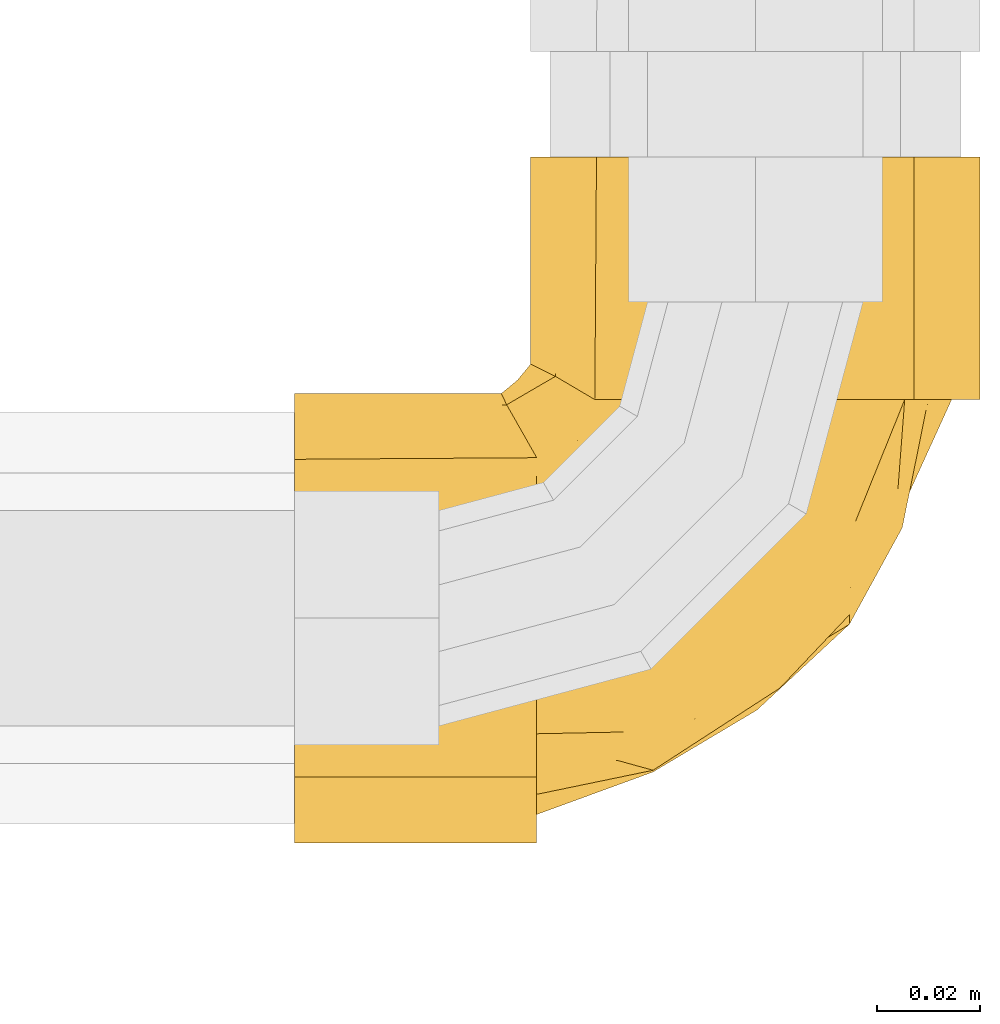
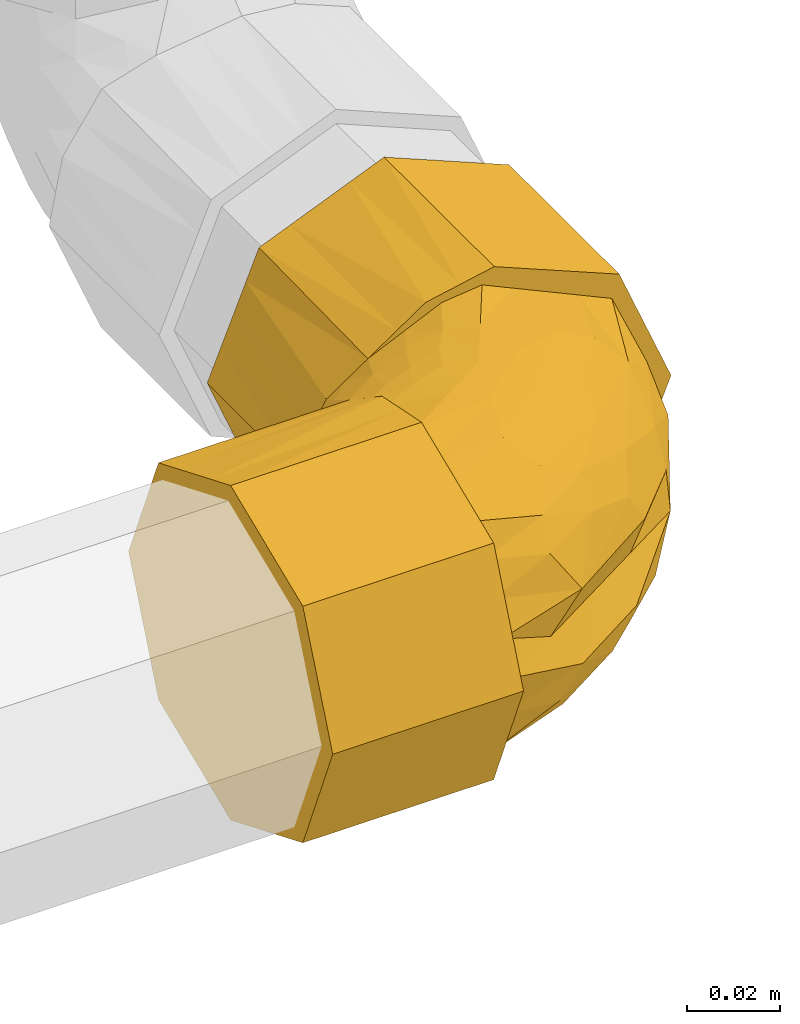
# One storey, part 275 of 652: 1 covering.
"""IFC2X3 building model written with IfcOpenShell, lengths in millimetres."""

import ifcopenshell
import ifcopenshell.guid

model = None  # the IFC model being written
_history = None  # IfcOwnerHistory: only IFC2X3 demands one
_inside = {}  # id of a spatial element -> (the spatial element, [elements in it])
_under = {}  # id of a project, library or spatial element -> (it, [spatial elements below it])
_declared = {}  # id of a project -> (the project, [libraries it declares])
_typed = {}  # id of a type object -> (the type object, [elements of that type])
_made_of = {}  # id of a material, layer set ... -> (it, [elements and type objects made of it])


def new_model(schema):
    """Start an empty IFC model of exactly this schema.

    Asked for "IFC4X3", IfcOpenShell would pick the latest addendum, in which some entities
    have other attributes; the version numbers below select the first issue.
    IFC2X3 requires an IfcOwnerHistory on every rooted entity: one is made here for all.
    """
    global model, _history
    if schema == "IFC4X3":
        model = ifcopenshell.file(schema_version=(4, 3, 0, 0))
    else:
        model = ifcopenshell.file(schema=schema)
    _inside.clear()
    _under.clear()
    _declared.clear()
    _typed.clear()
    _made_of.clear()
    _history = None
    if model.schema == "IFC2X3":
        org = make("IfcOrganization", Name="unknown")
        user = make(
            "IfcPersonAndOrganization",
            ThePerson=make("IfcPerson", FamilyName="unknown"),
            TheOrganization=org,
        )
        app = make(
            "IfcApplication",
            ApplicationDeveloper=org,
            Version="unknown",
            ApplicationFullName="unknown",
            ApplicationIdentifier="unknown",
        )
        _history = make(
            "IfcOwnerHistory",
            OwningUser=user,
            OwningApplication=app,
            ChangeAction="ADDED",
            CreationDate=0,
        )
    return model


def make(cls, **values):
    """One entity of the class cls with the attributes given. An attribute that is None is left unset."""
    return model.create_entity(
        cls, **{name: value for name, value in values.items() if value is not None}
    )


def entity(cls, *values):
    """Any entity or typed value of the class cls, its attributes in the order of the schema. None: left unset."""
    e = model.create_entity(cls)
    for i, value in enumerate(values):
        if value is not None:
            e[i] = value
    return e


def rooted(cls, **values):
    """An entity with a GlobalId (a new one), such as an element, a storey or a relation."""
    return make(cls, GlobalId=ifcopenshell.guid.new(), OwnerHistory=_history, **values)


def si_unit(unit_type, name, prefix=None):
    """IfcSIUnit, for example si_unit("LENGTHUNIT", "METRE", prefix="MILLI")."""
    return make("IfcSIUnit", UnitType=unit_type, Prefix=prefix, Name=name)


def converted_unit(unit_type, name, factor, base, dimensions=None, offset=None):
    """IfcConversionBasedUnit, such as the inch: factor (a typed value) times the base unit."""
    return make(
        "IfcConversionBasedUnit"
        if offset is None
        else "IfcConversionBasedUnitWithOffset",
        ConversionOffset=offset,
        Dimensions=None
        if dimensions is None
        else entity("IfcDimensionalExponents", *dimensions),
        UnitType=unit_type,
        Name=name,
        ConversionFactor=make(
            "IfcMeasureWithUnit", ValueComponent=factor, UnitComponent=base
        ),
    )


def assignment(units):
    """IfcUnitAssignment: the units of a project."""
    return None if units is None else make("IfcUnitAssignment", Units=units)


def point(xyz):
    """IfcCartesianPoint."""
    return None if xyz is None else make("IfcCartesianPoint", Coordinates=xyz)


def direction(xyz):
    """IfcDirection."""
    return None if xyz is None else make("IfcDirection", DirectionRatios=xyz)


def frame(location, z_axis=None, x_axis=None):
    """IfcAxis2Placement3D, a coordinate frame: its origin and axes. An axis left out is left unset."""
    return make(
        "IfcAxis2Placement3D",
        Location=point(location),
        Axis=direction(z_axis),
        RefDirection=direction(x_axis),
    )


def origin():
    """The frame at (0, 0, 0) with its axes left unset."""
    return frame((0.0, 0.0, 0.0))


def place(relative_to, where):
    """IfcLocalPlacement: puts the frame where relative to a parent placement (None: the world)."""
    return make(
        "IfcLocalPlacement", PlacementRelTo=relative_to, RelativePlacement=where
    )


def context(
    kind, dimensions, precision=None, world=None, true_north=None, identifier=None
):
    """IfcGeometricRepresentationContext, for example the 3D "Model" context."""
    return make(
        "IfcGeometricRepresentationContext",
        ContextIdentifier=identifier,
        ContextType=kind,
        CoordinateSpaceDimension=dimensions,
        Precision=precision,
        WorldCoordinateSystem=world,
        TrueNorth=true_north,
    )


def subcontext(parent, identifier, kind, view, scale=None):
    """IfcGeometricRepresentationSubContext, for example "Body" below "Model"."""
    return make(
        "IfcGeometricRepresentationSubContext",
        ContextIdentifier=identifier,
        ContextType=kind,
        ParentContext=parent,
        TargetScale=scale,
        TargetView=view,
    )


def project(units=None, contexts=None):
    """IfcProject with its units and contexts."""
    return rooted(
        "IfcProject",
        Name="project",
        RepresentationContexts=contexts,
        UnitsInContext=assignment(units),
    )


def spatial(cls, under=None, at=None, **own):
    """A site, building, storey or space (cls), placed at a placement, below another one or the project."""
    s = rooted(cls, ObjectPlacement=at, **own)
    if under is not None:
        _under.setdefault(under.id(), (under, []))[1].append(s)
    return s


def faces_of(points, faces, orient=None, outer=None):
    """IfcFace entities. A face is a list of loops; a loop is a list of indices into points, from 0.

    orient and outer hold one flag for each loop. By default every Orientation is true, the
    first loop of a face is its IfcFaceOuterBound and the others are IfcFaceBound.
    """
    made = []
    for i, loops in enumerate(faces):
        bounds = []
        for j, loop in enumerate(loops):
            is_outer = j == 0 if outer is None else outer[i][j]
            bounds.append(
                make(
                    "IfcFaceOuterBound" if is_outer else "IfcFaceBound",
                    Bound=make("IfcPolyLoop", Polygon=[points[k] for k in loop]),
                    Orientation=True if orient is None else orient[i][j],
                )
            )
        made.append(make("IfcFace", Bounds=bounds))
    return made


def faceted_brep(points, faces, orient=None, outer=None, voids=None):
    """IfcFacetedBrep: a solid bounded by flat faces; with voids (closed shells), ...WithVoids."""
    shared = [point(p) for p in points]
    hull = make("IfcClosedShell", CfsFaces=faces_of(shared, faces, orient, outer))
    if voids is None:
        return make("IfcFacetedBrep", Outer=hull)
    return make(
        "IfcFacetedBrepWithVoids",
        Outer=hull,
        Voids=[
            make(cls, CfsFaces=faces_of(shared, fs, o, b)) for cls, fs, o, b in voids
        ],
    )


def shape(context_of_items, identifier, shape_type, items):
    """IfcShapeRepresentation: the items that make up one representation, for example the "Body"."""
    return make(
        "IfcShapeRepresentation",
        ContextOfItems=context_of_items,
        RepresentationIdentifier=identifier,
        RepresentationType=shape_type,
        Items=items,
    )


def material(Name=None, Category=None):
    """IfcMaterial."""
    return make("IfcMaterial", Name=Name, Category=Category)


def made_of(thing, what):
    """Note that an element or type object is made of a material, layer set ...; save() writes the relation."""
    if what is not None:
        _made_of.setdefault(what.id(), (what, []))[1].append(thing)
    return thing


def type_object(cls, material=None, **own):
    """A type object (cls), such as IfcWallType, which elements share."""
    return made_of(rooted(cls, **own), material)


def element(
    cls,
    number,
    at=None,
    inside=None,
    cuts=None,
    type_object=None,
    material=None,
    context=None,
    identifier="Body",
    shape_type=None,
    held_by="IfcProductDefinitionShape",
    body=None,
    shapes=None,
    **own,
):
    """One element of the class cls, such as IfcWall. Its Tag is "e" and its number.

    at: its placement. inside: the storey or other place that contains it. cuts: it is an
    opening in that element (IfcRelVoidsElement). A single representation is given by context,
    identifier, shape_type and body (its items); several are given by shapes. held_by: the class
    of the entity that holds the representations. save() writes the other relations.
    """
    e = rooted(cls, Tag="e%d" % number, ObjectPlacement=at, **own)
    if body is not None:
        shapes = [shape(context, identifier, shape_type, body)]
    if shapes is not None:
        e.Representation = make(held_by, Representations=shapes)
    if inside is not None:
        _inside.setdefault(inside.id(), (inside, []))[1].append(e)
    if cuts is not None:
        rooted(
            "IfcRelVoidsElement", RelatingBuildingElement=cuts, RelatedOpeningElement=e
        )
    if type_object is not None:
        _typed.setdefault(type_object.id(), (type_object, []))[1].append(e)
    return made_of(e, material)


def aggregate(whole, parts):
    """IfcRelAggregates: a whole, such as a stair, and the parts it consists of."""
    return rooted("IfcRelAggregates", RelatingObject=whole, RelatedObjects=parts)


def save(model, path):
    """Write the relations noted so far, then the file.

    IfcRelAggregates (storeys below a building ...), IfcRelContainedInSpatialStructure (elements
    in a storey), IfcRelDefinesByType, IfcRelAssociatesMaterial and IfcRelDeclares: one each for
    every whole, place, type object, material and project.
    """
    for whole, parts in _under.values():
        aggregate(whole, parts)
    for where, things in _inside.values():
        rooted(
            "IfcRelContainedInSpatialStructure",
            RelatedElements=things,
            RelatingStructure=where,
        )
    for kind, things in _typed.values():
        rooted("IfcRelDefinesByType", RelatedObjects=things, RelatingType=kind)
    for what, things in _made_of.values():
        rooted("IfcRelAssociatesMaterial", RelatedObjects=things, RelatingMaterial=what)
    for by, libraries in _declared.values():
        rooted("IfcRelDeclares", RelatingContext=by, RelatedDefinitions=libraries)
    model.write(path)


model = new_model("IFC2X3")

# Units and contexts
model_context = context("Model", 3, precision=0.01, world=frame((0.0, 0.0, 308426.39999999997)), true_north=direction((6.123233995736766e-17, 1.0)))
plan_context = context("Plan", 3, precision=0.01, world=frame((0.0, 0.0, 308426.39999999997)), true_north=direction((6.123233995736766e-17, 1.0)))
body_context = subcontext(model_context, "Body", "Model", "MODEL_VIEW")
ifc_project = project(units=[si_unit("LENGTHUNIT", "METRE", prefix="MILLI"), si_unit("AREAUNIT", "SQUARE_METRE"), si_unit("VOLUMEUNIT", "CUBIC_METRE"), converted_unit("PLANEANGLEUNIT", "DEGREE", entity("IfcPlaneAngleMeasure", 0.017453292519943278), si_unit("PLANEANGLEUNIT", "RADIAN"), dimensions=[0, 0, 0, 0, 0, 0, 0])], contexts=[model_context, plan_context])

# Site, building, storey
site_placement = place(None, origin())
site = spatial("IfcSite", under=ifc_project, at=site_placement, Name="Default", CompositionType="ELEMENT")
building_placement = place(site_placement, origin())
building = spatial("IfcBuilding", under=site, at=building_placement, CompositionType="ELEMENT")
storey_placement = place(building_placement, frame((0.0, 0.0, 1730.6999999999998)))
storey = spatial("IfcBuildingStorey", under=building, at=storey_placement, Name="EG_Produktion_FFB", CompositionType="ELEMENT", Elevation=1730.6999999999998)

# Covering
ifc_material = material(Name="Dämmung - Armaflex-Schlauch")
covering_type = type_object("IfcCoveringType", Name="Rohrdämmung außen:Armaflex-Schlauch", PredefinedType="INSULATION")
covering_placement = place(storey_placement, frame((79532.37274770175, 78533.41483172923, 3554.684727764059)))
element("IfcCovering", 1, at=covering_placement, inside=storey, type_object=covering_type, material=ifc_material, Name="Rohrdämmung außen:Armaflex-Schlauch", ObjectType="Rohrdämmung außen:Armaflex-Schlauch", PredefinedType="INSULATION", context=body_context, shape_type="Brep", body=[
    faceted_brep([(47.17999999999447, 45.31527223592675, 1.5952722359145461), (47.17999999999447, 53.79016376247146, 3.3049418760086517), (47.17999999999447, 62.26505528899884, 5.01461151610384), (47.17999999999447, 69.40707949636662, 9.868813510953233), (47.17999999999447, 76.54910370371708, 14.723015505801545), (47.180000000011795, 67.43551000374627, 10.581665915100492), (47.17999999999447, 58.3219163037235, 6.4403163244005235), (47.17999999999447, 48.3217638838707, 5.315272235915), (47.180000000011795, 40.633175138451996, 8.855811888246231), (47.180000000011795, 32.944586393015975, 12.396351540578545), (47.180000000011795, 24.59523826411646, 16.241166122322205), (47.17999999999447, 16.2458901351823, 20.08598070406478), (47.180000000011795, 11.677312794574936, 32.70062646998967), (47.17999999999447, 7.108735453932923, 45.31527223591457), (47.180000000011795, 11.03642767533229, 53.1972475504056), (47.180000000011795, 14.964119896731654, 61.07922286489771), (47.180000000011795, 18.89181211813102, 68.96119817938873), (47.17999999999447, 22.819504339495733, 76.84317349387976), (47.180000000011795, 32.05670644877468, 79.91186190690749), (47.180000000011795, 40.18923516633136, 82.61356707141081), (47.17999999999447, 48.3217638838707, 85.31527223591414), (47.180000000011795, 52.07968978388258, 84.47655416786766), (47.180000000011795, 55.837615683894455, 83.63783609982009), (47.180000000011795, 61.847960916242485, 82.29640860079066), (47.17999999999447, 67.85830614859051, 80.95498110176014), (47.17999999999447, 76.54910370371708, 75.9075289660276), (47.17999999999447, 69.40707949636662, 80.76173096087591), (47.17999999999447, 62.26505528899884, 85.6159329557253), (47.17999999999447, 53.79016376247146, 87.32560259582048), (47.17999999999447, 45.31527223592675, 89.03527223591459), (47.17999999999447, 36.91076329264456, 85.55401064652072), (47.17999999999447, 29.857917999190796, 82.6326264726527), (47.17999999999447, 22.129240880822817, 79.43130359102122), (47.17999999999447, 14.400563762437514, 76.22998070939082), (47.17999999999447, 11.199240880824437, 68.50130359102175), (47.17999999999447, 7.9979179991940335, 60.77262647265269), (47.17999999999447, 5.076533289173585, 53.71977988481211), (47.17999999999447, 1.5952722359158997, 45.31527223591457), (47.17999999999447, 5.076533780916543, 36.91076339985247), (47.17999999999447, 7.9979179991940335, 29.85791799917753), (47.17999999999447, 11.199240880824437, 22.12924088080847), (47.17999999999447, 14.400563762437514, 14.400563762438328), (47.17999999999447, 22.129240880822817, 11.199240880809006), (47.17999999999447, 29.857917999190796, 7.997917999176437), (47.17999999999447, 36.910764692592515, 5.07653324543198), (0.0, 76.22998070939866, 76.22998070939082), (0.0, 79.43130359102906, 68.50130359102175), (0.0, 82.63262647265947, 60.77262647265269), (0.0, 85.83394935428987, 53.04394935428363), (0.0, 89.03527223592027, 45.31527223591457), (0.0, 85.55401125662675, 36.91076476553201), (0.0, 82.63262647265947, 29.857917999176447), (0.0, 79.43130359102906, 22.129240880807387), (0.0, 76.22998070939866, 14.400563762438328), (0.0, 68.50130359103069, 11.199240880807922), (0.0, 60.77262647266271, 7.997917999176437), (0.0, 53.04394935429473, 4.796595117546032), (0.0, 45.31527223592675, 1.5952722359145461), (0.0, 37.58659511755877, 4.796595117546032), (0.0, 29.857917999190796, 7.997917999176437), (0.0, 22.129240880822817, 11.199240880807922), (0.0, 14.400563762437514, 14.400563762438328), (0.0, 11.199240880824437, 22.12924088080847), (0.0, 7.9979179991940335, 29.857917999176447), (0.0, 4.796595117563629, 37.58659511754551), (0.0, 1.5952722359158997, 45.31527223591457), (0.0, 4.796595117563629, 53.04394935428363), (0.0, 7.9979179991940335, 60.77262647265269), (0.0, 11.199240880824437, 68.50130359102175), (0.0, 14.400563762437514, 76.22998070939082), (0.0, 21.453408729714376, 79.15136474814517), (0.0, 28.50625369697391, 82.07274878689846), (0.0, 36.91076296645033, 85.55401051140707), (0.0, 45.31527223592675, 89.03527223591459), (0.0, 53.71977982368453, 85.55401120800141), (0.0, 60.77262647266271, 82.6326264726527), (0.0, 68.50130359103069, 79.4313035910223), (40.28038015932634, 89.03527223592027, 45.31527223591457), (41.33169831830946, 86.84897286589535, 58.96774864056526), (44.25584915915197, 81.69903828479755, 67.43763880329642), (41.46955853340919, 86.62452082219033, 35.33597719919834), (42.65873690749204, 84.21376940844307, 25.35668216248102), (44.91936845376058, 80.38143655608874, 20.039848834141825), (89.72000000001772, 87.85527223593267, 1.595272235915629), (98.1245082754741, 87.85527223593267, 5.07653354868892), (105.17735423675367, 87.85527223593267, 7.9979179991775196), (112.90603135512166, 87.85527223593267, 11.199240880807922), (120.63470847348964, 87.85527223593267, 14.40056376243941), (123.83603135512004, 87.85527223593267, 22.12924088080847), (127.03735423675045, 87.85527223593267, 29.85791799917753), (129.95873900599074, 87.85527223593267, 36.910764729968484), (133.44000000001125, 87.85527223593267, 45.31527223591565), (129.95873853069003, 87.85527223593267, 53.71978088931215), (127.03735423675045, 87.85527223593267, 60.772626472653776), (123.83603135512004, 87.85527223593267, 68.50130359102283), (120.63470847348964, 87.85527223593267, 76.2299807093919), (112.90603135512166, 87.85527223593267, 79.4313035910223), (105.17735423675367, 87.85527223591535, 82.6326264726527), (98.12450799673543, 87.85527223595, 85.55401103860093), (89.72000000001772, 87.85527223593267, 89.03527223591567), (81.24510874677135, 87.85527223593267, 87.32560271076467), (72.77021749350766, 87.85527223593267, 85.61593318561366), (65.62819301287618, 87.85527223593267, 80.76173107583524), (58.48616853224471, 87.85527223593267, 75.90752896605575), (67.59976223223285, 87.85527223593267, 80.0488785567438), (76.71335593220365, 87.85527223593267, 84.19022814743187), (86.71350835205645, 87.85527223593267, 85.31527223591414), (94.40209699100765, 87.85527223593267, 81.77473263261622), (102.09068562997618, 87.85527223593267, 78.23419302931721), (110.44003386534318, 87.85527223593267, 74.38937839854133), (118.78938210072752, 87.85527223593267, 70.54456376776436), (123.35795944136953, 87.85527223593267, 57.92991800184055), (127.92653678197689, 87.85527223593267, 45.31527223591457), (124.11404686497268, 87.85527223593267, 37.66448146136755), (120.30155694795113, 87.85527223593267, 30.013690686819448), (116.25866242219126, 87.85527223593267, 21.900530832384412), (112.21576789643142, 87.85527223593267, 13.78737097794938), (102.97856549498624, 87.85527223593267, 10.718682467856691), (94.84603692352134, 87.85527223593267, 8.016977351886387), (86.71350835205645, 87.85527223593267, 5.315272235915), (82.95558201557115, 87.85527223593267, 6.153990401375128), (79.19765567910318, 87.85527223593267, 6.9927085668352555), (73.18731088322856, 87.85527223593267, 8.334135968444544), (67.17696608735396, 87.85527223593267, 9.675563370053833), (58.48616853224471, 87.85527223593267, 14.723015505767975), (65.62819301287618, 87.85527223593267, 9.868813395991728), (72.77021749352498, 87.85527223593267, 5.01461128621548), (81.24510874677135, 87.85527223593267, 3.3049417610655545), (120.63470847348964, 135.03527223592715, 76.2299807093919), (123.5560925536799, 135.03527223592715, 69.17713564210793), (126.47747663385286, 135.03527223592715, 62.12429057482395), (129.9587383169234, 135.03527223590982, 53.7197814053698), (133.44000000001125, 135.03527223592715, 45.31527223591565), (130.23867711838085, 135.03527223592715, 37.586595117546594), (127.03735423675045, 135.03527223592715, 29.85791799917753), (123.83603135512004, 135.03527223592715, 22.12924088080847), (120.63470847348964, 135.03527223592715, 14.40056376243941), (113.58186238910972, 135.03527223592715, 11.479179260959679), (106.5290163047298, 135.03527223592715, 8.557794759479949), (98.12450815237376, 135.03527223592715, 5.076533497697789), (89.72000000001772, 135.03527223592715, 1.595272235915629), (81.31549252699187, 135.03527223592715, 5.076533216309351), (74.26264576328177, 135.03527223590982, 7.9979179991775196), (66.53396864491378, 135.03527223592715, 11.199240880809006), (58.805291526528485, 135.03527223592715, 14.40056376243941), (55.603968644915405, 135.03527223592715, 22.129240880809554), (52.402645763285, 135.03527223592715, 29.85791799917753), (49.2013228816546, 135.03527223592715, 37.586595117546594), (46.0, 135.03527223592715, 45.31527223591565), (49.48126098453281, 135.03527223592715, 53.71977971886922), (52.402645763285, 135.03527223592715, 60.772626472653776), (55.603968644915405, 135.03527223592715, 68.50130359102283), (58.805291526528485, 135.03527223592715, 76.2299807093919), (66.53396864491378, 135.03527223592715, 79.4313035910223), (74.26264576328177, 135.03527223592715, 82.63262647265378), (81.3154907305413, 135.03527223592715, 85.55401051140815), (89.72000000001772, 135.03527223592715, 89.03527223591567), (97.4486771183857, 135.03527223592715, 85.83394935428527), (105.17735423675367, 135.03527223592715, 82.63262647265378), (112.90603135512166, 135.03527223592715, 79.4313035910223), (48.410751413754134, 93.5657137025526, 55.294567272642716), (46.0, 94.75489207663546, 45.31527223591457), (50.8215028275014, 92.37653532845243, 65.27386230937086), (54.653835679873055, 90.11590378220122, 70.59069563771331), (48.18629937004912, 93.70357391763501, 31.662795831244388), (53.336233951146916, 90.7794230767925, 23.19290566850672), (69.00398703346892, 32.542650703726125, 77.86587625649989), (79.26910311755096, 51.42928359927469, 82.8446716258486), (64.28083873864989, 39.731083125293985, 82.52556184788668), (81.73107569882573, 63.42773519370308, 84.62352217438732), (79.20442983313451, 75.59759657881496, 85.31527223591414), (78.10776438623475, 73.80742095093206, 85.31527223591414), (74.90155785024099, 68.57367093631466, 85.31527223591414), (71.69535131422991, 63.339920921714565, 85.31527223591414), (67.73559181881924, 51.36605693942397, 84.7662311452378), (62.90914025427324, 17.630996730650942, 66.05232360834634), (64.29367597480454, 23.177365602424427, 72.22141766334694), (109.22554710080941, 64.17997612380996, 71.71080253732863), (102.70311048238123, 67.51314169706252, 78.22924719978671), (108.27850507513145, 51.24294252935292, 62.80949503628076), (117.4765137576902, 70.50737075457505, 64.91193348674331), (89.70611796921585, 44.60323784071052, 75.72471560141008), (79.3911978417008, 32.37339901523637, 73.02350929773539), (94.79312059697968, 40.16518469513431, 68.32454403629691), (90.62231442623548, 54.501993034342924, 79.98762004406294), (62.3907714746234, 16.36207193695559, 45.31527223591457), (69.82106388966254, 15.721031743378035, 55.593429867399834), (108.0486861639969, 46.00045172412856, 54.75273824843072), (118.29916246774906, 62.88363947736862, 55.29732490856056), (93.39961730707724, 68.05804006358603, 82.6538054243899), (77.92716293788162, 25.713963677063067, 66.96108775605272), (94.51239127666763, 31.720184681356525, 55.48321494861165), (90.48949943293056, 31.73240396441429, 62.62473881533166), (108.02308589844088, 44.12208138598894, 45.31527223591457), (119.72050695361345, 69.82443573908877, 45.31527223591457), (77.60154294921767, 25.615408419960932, 45.31527223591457), (92.81231442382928, 34.8687449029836, 45.31527223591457), (82.41063636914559, 80.83134659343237, 85.31527223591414), (66.46160079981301, 60.13371407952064, 85.31527223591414), (61.22785028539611, 56.9275072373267, 85.31527223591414), (54.20392514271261, 52.62463556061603, 85.31527223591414), (50.69196257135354, 50.47319972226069, 85.31527223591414), (71.7294738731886, 78.77641040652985, 84.11551811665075), (67.3601062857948, 72.99735377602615, 84.10693973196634), (56.52012715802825, 64.92960904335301, 83.79173661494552), (65.04087912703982, 66.80037174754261, 84.6791196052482), (59.90607442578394, 72.04093677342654, 82.618610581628), (63.43136302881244, 80.24278960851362, 81.34638912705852), (43.41108006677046, 91.62419216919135, 45.31527223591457), (49.261107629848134, 86.20019924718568, 69.27986326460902), (55.14442212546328, 79.89085022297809, 77.75187936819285), (53.03286107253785, 70.8984327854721, 81.12154294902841), (62.99433518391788, 75.12919765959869, 8.011933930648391), (54.792482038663, 71.60390875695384, 9.284155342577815), (55.14442305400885, 79.89084929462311, 12.878664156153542), (61.227850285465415, 56.92750723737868, 5.315272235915), (59.43767565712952, 55.83084240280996, 5.315272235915), (54.203925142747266, 52.62463556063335, 5.315272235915), (48.83507246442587, 85.77416463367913, 21.350681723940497), (64.13683850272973, 82.00241115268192, 9.509001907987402), (70.10566333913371, 78.51514579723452, 6.838807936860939), (62.03791892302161, 67.67516617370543, 6.523604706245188), (68.23490171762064, 69.99439375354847, 5.951424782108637), (71.69535131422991, 63.339920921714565, 5.315272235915), (56.258862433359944, 63.30579864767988, 6.515026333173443), (66.46160079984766, 60.13371407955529, 5.315272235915), (84.56207236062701, 84.34330941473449, 5.315272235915), (82.4106363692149, 80.831346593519, 5.315272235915), (78.10776438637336, 73.80742095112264, 5.315272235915), (74.90155785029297, 68.57367093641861, 5.315272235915), (112.06272967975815, 70.51865502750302, 18.716447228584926), (117.62981658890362, 72.14354849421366, 24.918359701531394), (109.44097839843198, 57.146839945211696, 23.79714433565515), (102.73486486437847, 41.373241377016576, 31.915050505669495), (96.00640061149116, 40.15392129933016, 23.59450518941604), (69.7757408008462, 15.362731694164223, 36.271351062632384), (117.47983892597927, 62.15626531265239, 33.851954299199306), (71.60753660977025, 53.30419603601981, 6.007022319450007), (66.97986259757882, 41.63422557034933, 7.977727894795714), (83.6059878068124, 55.76616792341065, 7.785872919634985), (80.53671556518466, 44.4156580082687, 10.643004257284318), (95.30418854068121, 70.75443260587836, 8.10498259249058), (83.66921531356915, 67.29968029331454, 5.864313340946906), (90.43203242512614, 45.32915177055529, 14.905829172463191), (102.4926207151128, 66.03128380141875, 12.764668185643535), (102.74278789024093, 55.65510988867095, 17.670100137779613), (71.20903818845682, 26.255526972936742, 18.662195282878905), (66.84410548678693, 32.06723242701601, 12.346778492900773), (83.52574882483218, 26.49098852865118, 27.959461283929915), (64.64552317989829, 16.58661171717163, 27.504504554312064), (90.0539908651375, 27.44243292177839, 37.026086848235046)], [[[0, 1, 2, 3, 4, 5, 6, 7, 8, 9, 10, 11, 12, 13, 14, 15, 16, 17, 18, 19, 20, 21, 22, 23, 24, 25, 26, 27, 28, 29, 30, 31, 32, 33, 34, 35, 36, 37, 38, 39, 40, 41, 42, 43, 44]], [[45, 46, 47, 48, 49, 50, 51, 52, 53, 54, 55, 56, 57, 58, 59, 60, 61, 62, 63, 64, 65, 66, 67, 68, 69, 70, 71, 72, 73, 74, 75, 76]], [[74, 27, 76, 75]], [[77, 48, 78]], [[78, 47, 79]], [[48, 77, 49]], [[25, 79, 46]], [[27, 74, 28]], [[45, 26, 25]], [[48, 47, 78]], [[73, 28, 74]], [[73, 29, 28]], [[76, 27, 26]], [[26, 45, 76]], [[25, 46, 45]], [[79, 47, 46]], [[30, 29, 73, 72, 71, 70, 69, 33, 32, 31]], [[33, 69, 68, 67, 66, 65, 37, 36, 35, 34]], [[0, 44, 43, 42, 41, 61, 60, 59, 58, 57]], [[63, 62, 61, 41, 40, 39, 38, 37, 65, 64]], [[3, 54, 53]], [[57, 56, 0]], [[80, 51, 50]], [[55, 2, 1]], [[55, 54, 2]], [[52, 81, 82, 4]], [[50, 77, 80]], [[2, 54, 3]], [[1, 56, 55]], [[53, 4, 3]], [[51, 80, 81]], [[0, 56, 1]], [[50, 49, 77]], [[52, 4, 53]], [[52, 51, 81]], [[83, 84, 85, 86, 87, 88, 89, 90, 91, 92, 93, 94, 95, 96, 97, 98, 99, 100, 101, 102, 103, 104, 105, 106, 107, 108, 109, 110, 111, 112, 113, 114, 115, 116, 117, 118, 119, 120, 121, 122, 123, 124, 125, 126, 127]], [[128, 129, 130, 131, 132, 133, 134, 135, 136, 137, 138, 139, 140, 141, 142, 143, 144, 145, 146, 147, 148, 149, 150, 151, 152, 153, 154, 155, 156, 157, 158, 159]], [[130, 129, 128, 95, 94, 93, 92, 91, 132, 131]], [[95, 128, 159, 158, 157, 156, 99, 98, 97, 96]], [[102, 153, 152]], [[160, 150, 149]], [[99, 156, 100]], [[154, 153, 101, 155]], [[155, 101, 100]], [[149, 161, 160]], [[101, 153, 102]], [[151, 162, 163, 103]], [[152, 103, 102]], [[150, 160, 162]], [[156, 155, 100]], [[149, 148, 161]], [[151, 103, 152]], [[151, 150, 162]], [[125, 144, 143]], [[140, 83, 127]], [[161, 147, 164]], [[164, 146, 165]], [[147, 161, 148]], [[144, 125, 124]], [[126, 141, 127]], [[143, 142, 141, 126]], [[124, 145, 144]], [[140, 127, 141]], [[147, 146, 164]], [[143, 126, 125]], [[124, 165, 145]], [[165, 146, 145]], [[84, 83, 140, 139, 138, 137, 136, 87, 86, 85]], [[87, 136, 135, 134, 133, 132, 91, 90, 89, 88]], [[166, 167, 168]], [[169, 170, 171, 172, 173]], [[19, 168, 174]], [[17, 166, 18]], [[175, 176, 16]], [[177, 109, 178]], [[179, 180, 177]], [[181, 182, 183]], [[166, 181, 184]], [[14, 185, 186]], [[187, 188, 179]], [[184, 189, 167]], [[182, 181, 166]], [[176, 175, 190]], [[186, 191, 192]], [[166, 184, 167]], [[169, 174, 167]], [[188, 193, 194]], [[110, 109, 177]], [[190, 175, 186]], [[175, 16, 15]], [[186, 175, 15]], [[176, 190, 182]], [[186, 15, 14]], [[186, 195, 191]], [[196, 193, 187]], [[179, 183, 192]], [[184, 178, 189]], [[191, 195, 196]], [[178, 109, 108]], [[183, 177, 181]], [[178, 108, 189]], [[181, 177, 178]], [[189, 108, 107]], [[107, 106, 197, 170]], [[170, 169, 107]], [[169, 173, 174]], [[167, 189, 169]], [[107, 169, 189]], [[174, 173, 198, 199, 200, 201, 20]], [[174, 20, 19]], [[168, 19, 18]], [[166, 168, 18]], [[174, 168, 167]], [[111, 180, 188]], [[110, 177, 180]], [[194, 112, 111]], [[178, 184, 181]], [[188, 180, 179]], [[111, 110, 180]], [[179, 191, 187]], [[111, 188, 194]], [[187, 191, 196]], [[193, 188, 187]], [[192, 183, 190]], [[177, 183, 179]], [[166, 17, 176]], [[183, 182, 190]], [[166, 176, 182]], [[17, 16, 176]], [[185, 14, 13]], [[185, 195, 186]], [[186, 192, 190]], [[179, 192, 191]], [[172, 202, 203]], [[204, 205, 206]], [[23, 22, 21, 20, 201, 200, 199]], [[202, 104, 207]], [[208, 77, 78]], [[203, 173, 172]], [[203, 202, 207]], [[105, 104, 202]], [[163, 162, 209]], [[203, 205, 173]], [[197, 106, 105, 171, 170]], [[207, 206, 203]], [[210, 207, 103]], [[104, 103, 207]], [[160, 161, 208]], [[210, 163, 209]], [[206, 207, 210]], [[210, 25, 211]], [[204, 211, 24]], [[209, 25, 210]], [[78, 79, 25, 209]], [[105, 202, 171]], [[210, 103, 163]], [[78, 209, 162]], [[205, 203, 206]], [[172, 171, 202]], [[206, 211, 204]], [[204, 198, 205]], [[204, 24, 23]], [[210, 211, 206]], [[199, 204, 23]], [[198, 204, 199]], [[198, 173, 205]], [[25, 24, 211]], [[78, 160, 208]], [[78, 162, 160]], [[212, 213, 214]], [[6, 215, 216, 217, 7]], [[82, 218, 214]], [[219, 123, 220]], [[214, 213, 4]], [[5, 4, 213]], [[221, 222, 223]], [[208, 80, 77]], [[218, 124, 214]], [[161, 164, 208]], [[214, 124, 219]], [[6, 5, 224]], [[82, 81, 218]], [[224, 5, 213]], [[225, 224, 221]], [[220, 222, 212]], [[122, 121, 120, 119, 226, 227, 228]], [[164, 165, 124, 218]], [[221, 223, 225]], [[213, 212, 221]], [[221, 224, 213]], [[6, 224, 215]], [[214, 4, 82]], [[164, 218, 81]], [[222, 221, 212]], [[225, 215, 224]], [[212, 219, 220]], [[220, 229, 222]], [[220, 123, 122]], [[214, 219, 212]], [[228, 220, 122]], [[229, 220, 228]], [[229, 223, 222]], [[124, 123, 219]], [[164, 80, 208]], [[164, 81, 80]], [[230, 115, 231]], [[232, 233, 234]], [[12, 235, 13]], [[113, 194, 236]], [[237, 216, 215, 225, 223]], [[236, 232, 231]], [[238, 239, 240]], [[230, 231, 232]], [[118, 241, 242]], [[243, 244, 245]], [[246, 10, 247]], [[116, 244, 117]], [[244, 243, 240]], [[244, 239, 241]], [[248, 249, 246]], [[247, 238, 240]], [[237, 242, 239]], [[232, 236, 233]], [[250, 193, 196, 195]], [[113, 236, 114]], [[233, 248, 234]], [[113, 112, 194]], [[193, 236, 194]], [[236, 193, 233]], [[233, 250, 248]], [[231, 115, 114]], [[248, 250, 235]], [[248, 235, 249]], [[235, 250, 195]], [[235, 195, 185, 13]], [[235, 12, 249]], [[12, 11, 249]], [[246, 249, 11]], [[10, 9, 247]], [[234, 246, 243]], [[246, 234, 248]], [[245, 234, 243]], [[246, 11, 10]], [[247, 9, 238]], [[243, 246, 247]], [[238, 9, 8]], [[8, 7, 217, 216]], [[216, 237, 8]], [[237, 223, 242]], [[239, 238, 237]], [[8, 237, 238]], [[242, 223, 229, 228, 227, 226, 119]], [[242, 119, 118]], [[241, 118, 117]], [[244, 241, 117]], [[242, 241, 239]], [[244, 240, 239]], [[247, 240, 243]], [[193, 250, 233]], [[236, 231, 114]], [[230, 232, 245]], [[244, 116, 230]], [[234, 245, 232]], [[244, 230, 245]], [[116, 115, 230]]]),
])

save(model, "model.ifc")
